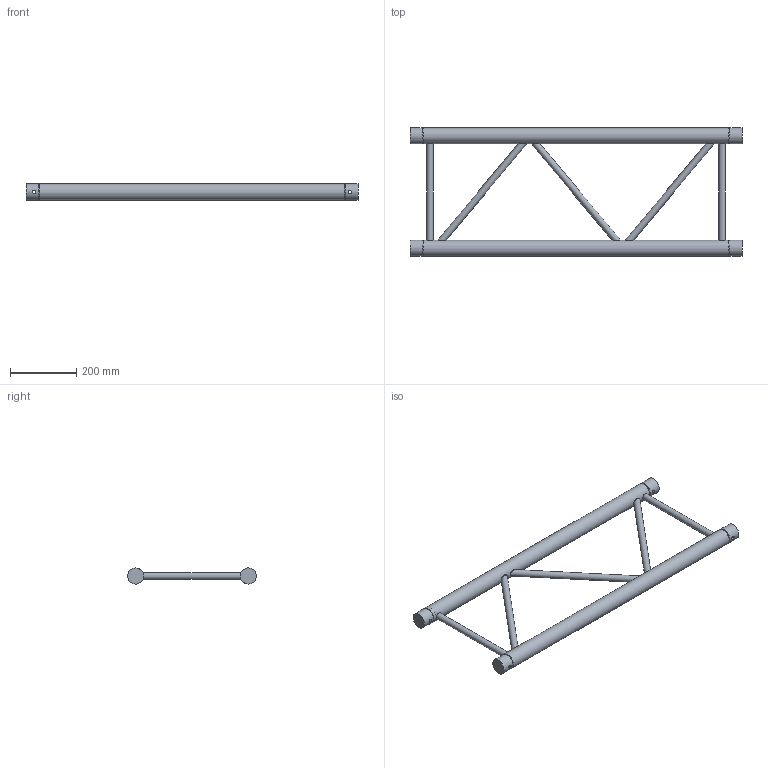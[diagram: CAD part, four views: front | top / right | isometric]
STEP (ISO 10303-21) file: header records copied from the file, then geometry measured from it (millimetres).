
FILE_DESCRIPTION(/* description */ (''),/* implementation_level */ '2;1');
FILE_NAME(/* name */ 'C:\Users\stephan\Desktop\Nieuwe map\H40L\111050153.stp',/* time_stamp */ '2016-09-12T12:51:15+02:00',/* author */ ('Stephan'),/* organization */ (''),/* preprocessor_version */ 'ST-DEVELOPER v15.6',/* originating_system */ 'Autodesk Inventor 2015',/* authorisation */ '');
FILE_SCHEMA (('AUTOMOTIVE_DESIGN { 1 0 10303 214 3 1 1 }'));
Length unit declared in the file: millimetre
Products named in the file (1): 160026982
Bounding box: 1000 x 387.3 x 48.3 mm (x, y, z)
Volume: 1426017.4 mm3; surface area: 740330.6 mm2
Topology: 7 solids, 9 shells, 64 faces, 124 edges, 76 vertices
Faces by surface type: plane 36, cylinder 24, cone 4
Full cylindrical faces by diameter (mm): 10 x4, 16 x3, 20 x5, 41.8 x4, 42.3 x2, 48.3 x6
Entity records: 1945 total; most frequent: CARTESIAN_POINT 513, DIRECTION 266, ORIENTED_EDGE 216, AXIS2_PLACEMENT_3D 125, EDGE_LOOP 124, EDGE_CURVE 92, VERTEX_POINT 76, STYLED_ITEM 65
